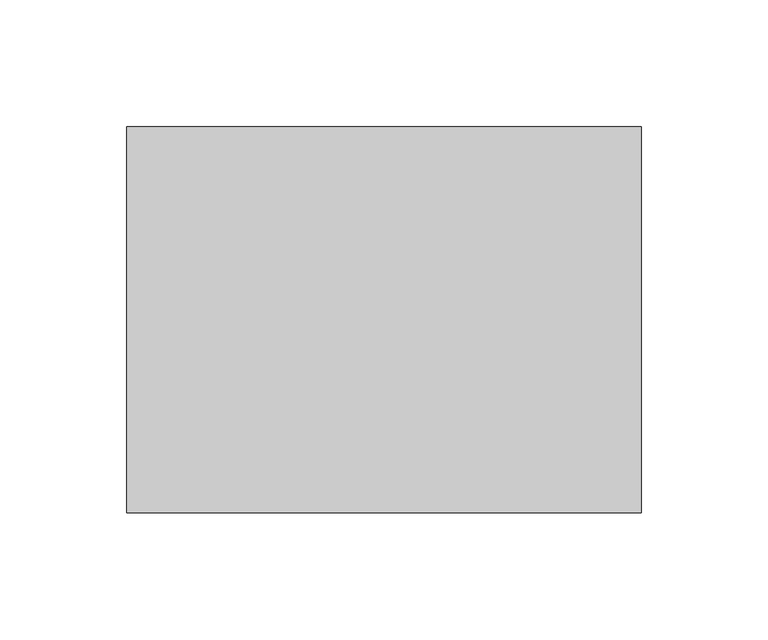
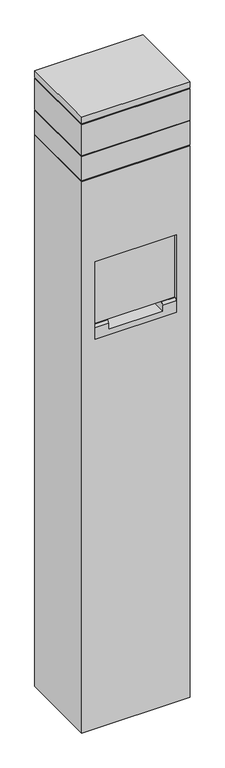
"""IFC4 building model written with IfcOpenShell, lengths in millimetres: proxy geometry, Charging_Station-Wiremold-Area_Light : Outdoor Charging Station with Area Light, 2 Gangs (1x GFCI, 1x 4USB), Bronze."""

from ifc_helpers import new_model, si_unit, frame, origin, origin_with_axes, place, context, project, spatial, polyline, circle_curve, outline, extrude, faceted_brep, source, transform, mapped, element, save
from ifc_brep_helpers import plane_surface, revolved_surface, advanced_brep


def electrical_fixtures_7a08368b(model_context):
    return source(origin(), model_context, "Body", "SolidModel", [
        faceted_brep([(76.2, -76.2, 770.89), (76.2, 19.05, 770.89), (76.2, 19.05, 798.068), (76.2, -72.136, 798.068), (76.2, -76.2, 794.004), (-76.2, -76.2, 770.89), (-76.2, -76.2, 794.004), (-76.2, -72.136, 798.068), (-76.2, 19.05, 798.068), (-76.2, 19.05, 770.89), (-50.8, -72.136, 798.068), (-50.8, -31.8809117, 798.068), (50.8, -31.8809117, 798.068), (50.8, -72.136, 798.068), (50.8, -76.2, 794.004), (50.8, -76.2, 782.193), (-50.8, -76.2, 782.193), (-50.8, -76.2, 794.004), (50.8, -50.8, 782.193), (-50.8, -50.8, 782.193)], [[[0, 1, 2, 3, 4]], [[5, 6, 7, 8, 9]], [[1, 0, 5, 9]], [[2, 1, 9, 8]], [[3, 2, 8, 7, 10, 11, 12, 13]], [[0, 4, 14, 15, 16, 17, 6, 5]], [[12, 18, 15, 14, 13]], [[16, 19, 11, 10, 17]], [[18, 12, 11, 19]], [[15, 18, 19, 16]], [[4, 3, 13, 14]], [[7, 6, 17, 10]]]),
        advanced_brep(
        [(101.6, 76.2, 1092.2), (-101.6, 76.2, 1092.2), (-101.6, -76.2, 1092.2), (101.6, -76.2, 1092.2), (101.6, 76.2, 0.0), (101.6, -76.2, 0.0), (-101.6, -76.2, 0.0), (-101.6, 76.2, 0.0), (-55.0037, 0.0, 0.0), (55.0037, 0.0, 0.0), (76.2, -76.2, 925.068), (76.2, -76.2, 770.89), (-76.2, -76.2, 770.89), (-76.2, -76.2, 925.068), (76.2, 19.05, 925.068), (76.2, 19.05, 770.89), (76.2, -70.612, 925.068), (76.2, -70.612, 956.818), (76.2, -38.1, 956.818), (76.2, -38.1, 925.068), (-76.2, 19.05, 925.068), (-76.2, -38.1, 925.068), (-76.2, -38.1, 956.818), (-76.2, -70.612, 956.818), (-76.2, -70.612, 925.068), (-76.2, 19.05, 770.89), (51.5994623, 19.05, 770.89), (55.0037, 0.0, 770.89), (-55.0037, 0.0, 770.89), (-51.5994623, 19.05, 770.89)],
        [
            (0, 1),
            (1, 2),
            (2, 3),
            (3, 0),
            (4, 5),
            (5, 6),
            (6, 7),
            (7, 4),
            (8, 9, circle_curve(origin_with_axes(), 55.0037)),
            (9, 8, circle_curve(origin_with_axes(), 55.0037)),
            (0, 4),
            (7, 1),
            (6, 2),
            (5, 3),
            (10, 11),
            (11, 12),
            (12, 13),
            (13, 10),
            (14, 15),
            (15, 11),
            (10, 16),
            (16, 17),
            (17, 18),
            (18, 19),
            (19, 14),
            (20, 21),
            (21, 22),
            (22, 23),
            (23, 24),
            (24, 13),
            (12, 25),
            (25, 20),
            (19, 21),
            (20, 14),
            (15, 26),
            (26, 27, circle_curve(frame((0.0, 0.0, 770.89), z_axis=(0.0, 0.0, -1.0), x_axis=(1.0, 0.0, 0.0)), 55.0037)),
            (27, 28, circle_curve(frame((0.0, 0.0, 770.89), z_axis=(0.0, 0.0, -1.0), x_axis=(1.0, 0.0, 0.0)), 55.0037)),
            (28, 29, circle_curve(frame((0.0, 0.0, 770.89), z_axis=(0.0, 0.0, -1.0), x_axis=(1.0, 0.0, 0.0)), 55.0037)),
            (29, 25),
            (29, 26),
            (18, 22),
            (17, 23),
            (16, 24),
            (29, 26, circle_curve(frame((0.0, 0.0, 770.89), z_axis=(0.0, 0.0, -1.0), x_axis=(1.0, 0.0, 0.0)), 55.0037)),
            (27, 9),
            (8, 28),
        ],
        [
            plane_surface(frame((-101.6, 76.2, 1092.2), z_axis=(0.0, 0.0, 1.0), x_axis=(-1.0, 0.0, 0.0))),
            plane_surface(frame((-101.6, 76.2, 0.0), z_axis=(0.0, 0.0, -1.0), x_axis=(1.0, 0.0, 0.0))),
            plane_surface(frame((101.6, 76.2, 1092.2), z_axis=(0.0, 1.0, 0.0), x_axis=(0.0, 0.0, -1.0))),
            plane_surface(frame((-101.6, 76.2, 1092.2), z_axis=(-1.0, 0.0, 0.0), x_axis=(0.0, 0.0, -1.0))),
            plane_surface(frame((-101.6, -76.2, 1092.2), z_axis=(0.0, -1.0, 0.0), x_axis=(0.0, 0.0, -1.0))),
            plane_surface(frame((101.6, -76.2, 1092.2), z_axis=(1.0, 0.0, 0.0), x_axis=(0.0, 0.0, -1.0))),
            plane_surface(frame((76.2, -38.1, 925.068), z_axis=(-1.0, 0.0, 0.0), x_axis=(0.0, -1.0, 0.0))),
            plane_surface(frame((-76.2, -38.1, 925.068), z_axis=(1.0, 0.0, 0.0), x_axis=(0.0, 1.0, 0.0))),
            plane_surface(frame((76.2, 19.05, 925.068), z_axis=(0.0, 0.0, -1.0), x_axis=(-1.0, 0.0, 0.0))),
            plane_surface(frame((76.2, -76.2, 770.89), z_axis=(0.0, 0.0, 1.0), x_axis=(-1.0, 0.0, 0.0))),
            plane_surface(frame((76.2, 19.05, 770.89), z_axis=(0.0, -1.0, 0.0), x_axis=(-1.0, 0.0, 0.0))),
            plane_surface(frame((76.2, -38.1, 925.068), z_axis=(0.0, -1.0, 0.0), x_axis=(-1.0, 0.0, 0.0))),
            plane_surface(frame((76.2, -38.1, 956.818), z_axis=(0.0, 0.0, -1.0), x_axis=(-1.0, 0.0, 0.0))),
            plane_surface(frame((76.2, -70.612, 956.818), z_axis=(0.0, 1.0, 0.0), x_axis=(-1.0, 0.0, 0.0))),
            plane_surface(frame((76.2, -70.612, 925.068), z_axis=(0.0, 0.0, -1.0), x_axis=(-1.0, 0.0, 0.0))),
            plane_surface(frame((55.0037, 0.0, 770.89), z_axis=(0.0, 0.0, -1.0), x_axis=(0.0, 1.0, 0.0))),
            revolved_surface(polyline([(55.0037, 0.0, 770.89), (55.0037, 0.0, 0.0)]), (0.0, 0.0, 0.0), (0.0, 0.0, 1.0)),
        ],
        [
            (0, [[1, 2, 3, 4]]),
            (1, [[5, 6, 7, 8], [9, 10]]),
            (2, [[-1, 11, -8, 12]]),
            (3, [[-2, -12, -7, 13]]),
            (4, [[-3, -13, -6, 14], [15, 16, 17, 18]]),
            (5, [[-4, -14, -5, -11]]),
            (6, [[19, 20, -15, 21, 22, 23, 24, 25]]),
            (7, [[26, 27, 28, 29, 30, -17, 31, 32]]),
            (8, [[-25, 33, -26, 34]]),
            (9, [[-20, 35, 36, 37, 38, 39, -31, -16]]),
            (10, [[-19, -34, -32, -39, 40, -35]]),
            (11, [[-24, 41, -27, -33]]),
            (12, [[-23, 42, -28, -41]]),
            (13, [[-22, 43, -29, -42]]),
            (14, [[-21, -18, -30, -43]]),
            (15, [[44, -40]]),
            (16, [[45, -9, 46, -37]]),
            (16, [[-45, -36, -44, -38, -46, -10]]),
        ],
    ),
        extrude(outline(polyline([(76.2, -38.1), (76.2, -70.612), (-76.2, -70.612), (-76.2, -38.1), (76.2, -38.1)])), frame((0.0, 0.0, 798.068), z_axis=(0.0, 0.0, 1.0), x_axis=(1.0, 0.0, 0.0)), (0.0, 0.0, 1.0), 158.75),
        extrude(outline(polyline([(99.822, 74.422), (99.822, -74.422), (-99.822, -74.422), (-99.822, 74.422), (99.822, 74.422)])), frame((0.0, 0.0, 1204.722), z_axis=(0.0, 0.0, 1.0), x_axis=(1.0, 0.0, 0.0)), (0.0, 0.0, 1.0), 1.778),
        extrude(outline(polyline([(99.822, 74.422), (99.822, -74.422), (-99.822, -74.422), (-99.822, 74.422), (99.822, 74.422)])), frame((0.0, 0.0, 1141.222), z_axis=(0.0, 0.0, 1.0), x_axis=(1.0, 0.0, 0.0)), (0.0, 0.0, 1.0), 1.778),
        extrude(outline(polyline([(99.822, 74.422), (99.822, -74.422), (-99.822, -74.422), (-99.822, 74.422), (99.822, 74.422)])), frame((0.0, 0.0, 1092.2), z_axis=(0.0, 0.0, 1.0), x_axis=(1.0, 0.0, 0.0)), (0.0, 0.0, 1.0), 1.778),
        extrude(outline(polyline([(101.6, 76.2), (101.6, -76.2), (-101.6, -76.2), (-101.6, 76.2), (101.6, 76.2)])), frame((0.0, 0.0, 1206.5), z_axis=(0.0, 0.0, 1.0), x_axis=(1.0, 0.0, 0.0)), (0.0, 0.0, 1.0), 12.7),
        extrude(outline(polyline([(101.6, 76.2), (101.6, -76.2), (-101.6, -76.2), (-101.6, 76.2), (101.6, 76.2)])), frame((0.0, 0.0, 1143.0), z_axis=(0.0, 0.0, 1.0), x_axis=(1.0, 0.0, 0.0)), (0.0, 0.0, 1.0), 61.722),
        extrude(outline(polyline([(101.6, 76.2), (101.6, -76.2), (-101.6, -76.2), (-101.6, 76.2), (101.6, 76.2)])), frame((0.0, 0.0, 1093.978), z_axis=(0.0, 0.0, 1.0), x_axis=(1.0, 0.0, 0.0)), (0.0, 0.0, 1.0), 47.244),
    ])


if __name__ == "__main__":
    model = new_model("IFC4")
    model_context = context("Model", 3, world=origin())
    ifc_project = project(units=[si_unit("LENGTHUNIT", "METRE", prefix="MILLI")], contexts=[model_context])
    site = spatial("IfcSite", under=ifc_project)
    building = spatial("IfcBuilding", under=site)
    placement = place(None, origin())
    electrical_fixtures_shape = electrical_fixtures_7a08368b(model_context)
    element("IfcBuildingElementProxy", 1, Name="Charging_Station-Wiremold-Area_Light : Outdoor Charging Station with Area Light, 2 Gangs (1x GFCI, 1x 4USB), Bronze", ObjectType="Charging_Station-Wiremold-Area_Light : Outdoor Charging Station with Area Light, 2 Gangs (1x GFCI, 1x 4USB), Bronze", at=placement, inside=building, context=model_context, shape_type="MappedRepresentation", body=[
        mapped(electrical_fixtures_shape, transform((0.0, 0.0, 0.0), x_axis=(1.0, 0.0, 0.0), y_axis=(0.0, 1.0, 0.0), z_axis=(0.0, 0.0, 1.0))),
    ])
    save(model, "model.ifc")
